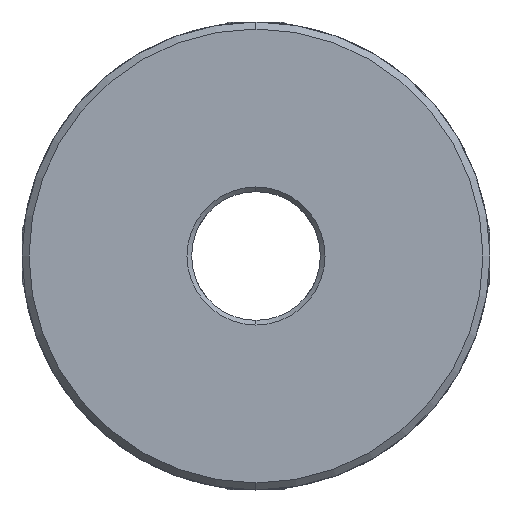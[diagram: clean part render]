
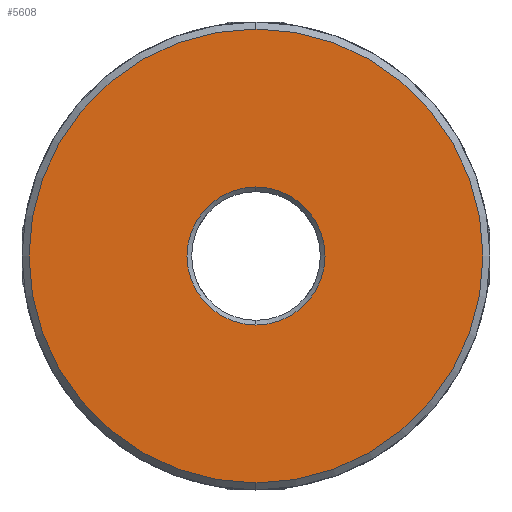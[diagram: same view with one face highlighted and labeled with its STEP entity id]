
A CAD part, front view. The second image highlights one B-rep face of the part: STEP entity #5608.
In plain terms, the highlighted planar face has unit normal (0, -1, 0).
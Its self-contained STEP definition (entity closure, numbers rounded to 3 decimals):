
#90 = ORIENTED_EDGE ( 'NONE', *, *, #1627, .T. ) ;
#188 = VERTEX_POINT ( 'NONE', #5123 ) ;
#230 = CARTESIAN_POINT ( 'NONE',  ( 0., 0., 0. ) ) ;
#444 = CARTESIAN_POINT ( 'NONE',  ( 24.74, 0., -50. ) ) ;
#559 = AXIS2_PLACEMENT_3D ( 'NONE', #6994, #5808, #3990 ) ;
#658 = CARTESIAN_POINT ( 'NONE',  ( 0., 0., 0. ) ) ;
#728 = DIRECTION ( 'NONE',  ( 0., 1., 0. ) ) ;
#828 = DIRECTION ( 'NONE',  ( 0., -1., 0. ) ) ;
#1289 = DIRECTION ( 'NONE',  ( 0., 1., 0. ) ) ;
#1392 = CIRCLE ( 'NONE', #1672, 5.9 ) ;
#1605 = EDGE_CURVE ( 'NONE', #188, #5814, #1392, .T. ) ;
#1627 = EDGE_CURVE ( 'NONE', #3471, #5638, #7043, .T. ) ;
#1672 = AXIS2_PLACEMENT_3D ( 'NONE', #658, #1289, #6623 ) ;
#1848 = FACE_BOUND ( 'NONE', #4782, .T. ) ;
#1992 = CARTESIAN_POINT ( 'NONE',  ( 0., 0., 0. ) ) ;
#3134 = DIRECTION ( 'NONE',  ( 0., 0., 1. ) ) ;
#3447 = PLANE ( 'NONE',  #6932 ) ;
#3471 = VERTEX_POINT ( 'NONE', #6452 ) ;
#3495 = CARTESIAN_POINT ( 'NONE',  ( 0., 0., -19.4 ) ) ;
#3566 = CIRCLE ( 'NONE', #5869, 5.9 ) ;
#3957 = EDGE_CURVE ( 'NONE', #5814, #188, #3566, .T. ) ;
#3981 = ORIENTED_EDGE ( 'NONE', *, *, #1605, .T. ) ;
#3990 = DIRECTION ( 'NONE',  ( 0., 0., 1. ) ) ;
#4690 = DIRECTION ( 'NONE',  ( 0., 1., 0. ) ) ;
#4782 = EDGE_LOOP ( 'NONE', ( #3981, #6024 ) ) ;
#5123 = CARTESIAN_POINT ( 'NONE',  ( 0., 0., -5.9 ) ) ;
#5129 = ORIENTED_EDGE ( 'NONE', *, *, #5866, .T. ) ;
#5277 = EDGE_LOOP ( 'NONE', ( #90, #5129 ) ) ;
#5293 = DIRECTION ( 'NONE',  ( 0., 0., 1. ) ) ;
#5608 = ADVANCED_FACE ( 'NONE', ( #1848, #5634 ), #3447, .F. ) ;
#5634 = FACE_OUTER_BOUND ( 'NONE', #5277, .T. ) ;
#5638 = VERTEX_POINT ( 'NONE', #3495 ) ;
#5808 = DIRECTION ( 'NONE',  ( 0., -1., 0. ) ) ;
#5814 = VERTEX_POINT ( 'NONE', #7538 ) ;
#5866 = EDGE_CURVE ( 'NONE', #5638, #3471, #6182, .T. ) ;
#5869 = AXIS2_PLACEMENT_3D ( 'NONE', #1992, #728, #3134 ) ;
#6024 = ORIENTED_EDGE ( 'NONE', *, *, #3957, .T. ) ;
#6182 = CIRCLE ( 'NONE', #559, 19.4 ) ;
#6257 = DIRECTION ( 'NONE',  ( 0., 0., 1. ) ) ;
#6452 = CARTESIAN_POINT ( 'NONE',  ( 0., 0., 19.4 ) ) ;
#6516 = AXIS2_PLACEMENT_3D ( 'NONE', #230, #828, #6257 ) ;
#6623 = DIRECTION ( 'NONE',  ( 0., 0., 1. ) ) ;
#6932 = AXIS2_PLACEMENT_3D ( 'NONE', #444, #4690, #5293 ) ;
#6994 = CARTESIAN_POINT ( 'NONE',  ( 0., 0., 0. ) ) ;
#7043 = CIRCLE ( 'NONE', #6516, 19.4 ) ;
#7538 = CARTESIAN_POINT ( 'NONE',  ( 0., 0., 5.9 ) ) ;
